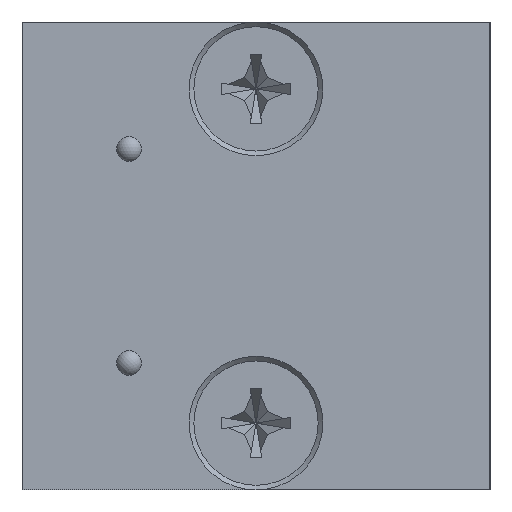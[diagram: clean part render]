
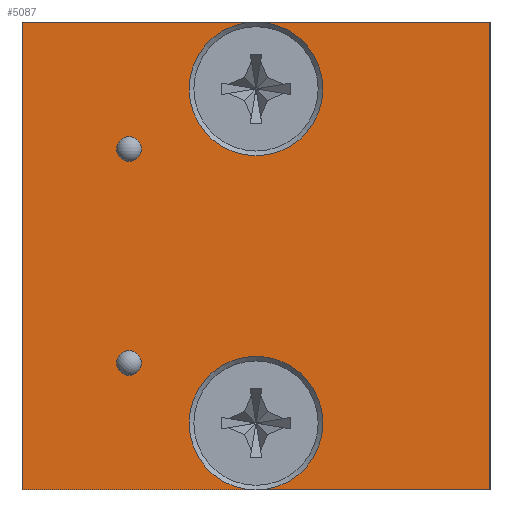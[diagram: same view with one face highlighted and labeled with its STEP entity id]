
A CAD part, left-side view. The second image highlights one B-rep face of the part: STEP entity #5087.
In plain terms, the highlighted planar face has unit normal (-1, 0, 0).
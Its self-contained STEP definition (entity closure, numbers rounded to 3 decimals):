
#267=CIRCLE('',#5406,5.);
#269=CIRCLE('',#5411,0.925);
#271=CIRCLE('',#5418,5.);
#273=CIRCLE('',#5421,0.925);
#833=ORIENTED_EDGE('',*,*,#1719,.T.);
#834=ORIENTED_EDGE('',*,*,#1718,.T.);
#835=ORIENTED_EDGE('',*,*,#1706,.T.);
#836=ORIENTED_EDGE('',*,*,#1721,.T.);
#837=ORIENTED_EDGE('',*,*,#1702,.T.);
#838=ORIENTED_EDGE('',*,*,#1722,.T.);
#839=ORIENTED_EDGE('',*,*,#1723,.T.);
#840=ORIENTED_EDGE('',*,*,#1715,.T.);
#841=ORIENTED_EDGE('',*,*,#1710,.T.);
#842=ORIENTED_EDGE('',*,*,#1724,.T.);
#1702=EDGE_CURVE('',#2228,#2228,#267,.T.);
#1706=EDGE_CURVE('',#2233,#2232,#2620,.T.);
#1710=EDGE_CURVE('',#2235,#2235,#269,.T.);
#1715=EDGE_CURVE('',#2238,#2239,#2622,.T.);
#1718=EDGE_CURVE('',#2239,#2233,#2625,.T.);
#1719=EDGE_CURVE('',#2239,#2239,#271,.T.);
#1721=EDGE_CURVE('',#2232,#2228,#2626,.T.);
#1722=EDGE_CURVE('',#2228,#2242,#2627,.T.);
#1723=EDGE_CURVE('',#2242,#2238,#2628,.T.);
#1724=EDGE_CURVE('',#2243,#2243,#273,.T.);
#2228=VERTEX_POINT('',#8081);
#2232=VERTEX_POINT('',#8089);
#2233=VERTEX_POINT('',#8091);
#2235=VERTEX_POINT('',#8115);
#2238=VERTEX_POINT('',#8149);
#2239=VERTEX_POINT('',#8150);
#2242=VERTEX_POINT('',#8162);
#2243=VERTEX_POINT('',#8165);
#2620=LINE('',#8090,#3018);
#2622=LINE('',#8148,#3020);
#2625=LINE('',#8154,#3023);
#2626=LINE('',#8160,#3024);
#2627=LINE('',#8161,#3025);
#2628=LINE('',#8163,#3026);
#3018=VECTOR('',#6108,1000.);
#3020=VECTOR('',#6126,1000.);
#3023=VECTOR('',#6129,1000.);
#3024=VECTOR('',#6138,1000.);
#3025=VECTOR('',#6139,1000.);
#3026=VECTOR('',#6140,1000.);
#3411=EDGE_LOOP('',(#833,#834,#835,#836,#837,#838,#839,#840));
#3412=EDGE_LOOP('',(#841));
#3413=EDGE_LOOP('',(#842));
#3761=FACE_BOUND('',#3411,.T.);
#3762=FACE_BOUND('',#3412,.T.);
#3763=FACE_BOUND('',#3413,.T.);
#3989=PLANE('',#5420);
#5087=ADVANCED_FACE('',(#3761,#3762,#3763),#3989,.T.);
#5406=AXIS2_PLACEMENT_3D('',#8080,#6100,#6101);
#5411=AXIS2_PLACEMENT_3D('',#8114,#6114,#6115);
#5418=AXIS2_PLACEMENT_3D('',#8156,#6132,#6133);
#5420=AXIS2_PLACEMENT_3D('',#8159,#6136,#6137);
#5421=AXIS2_PLACEMENT_3D('',#8164,#6141,#6142);
#6100=DIRECTION('',(1.,0.,0.));
#6101=DIRECTION('',(0.,1.,0.));
#6108=DIRECTION('',(0.,0.,1.));
#6114=DIRECTION('',(1.,0.,0.));
#6115=DIRECTION('',(0.,1.,0.));
#6126=DIRECTION('',(0.,-1.,0.));
#6129=DIRECTION('',(0.,-1.,0.));
#6132=DIRECTION('',(1.,0.,0.));
#6133=DIRECTION('',(0.,1.,0.));
#6136=DIRECTION('',(-1.,0.,0.));
#6137=DIRECTION('',(0.,-1.,0.));
#6138=DIRECTION('',(0.,1.,0.));
#6139=DIRECTION('',(0.,1.,0.));
#6140=DIRECTION('',(0.,0.,-1.));
#6141=DIRECTION('',(1.,0.,0.));
#6142=DIRECTION('',(0.,1.,0.));
#8080=CARTESIAN_POINT('',(-92.,0.,12.5));
#8081=CARTESIAN_POINT('',(-92.,0.,17.5));
#8089=CARTESIAN_POINT('',(-92.,-17.5,17.5));
#8090=CARTESIAN_POINT('',(-92.,-17.5,-17.5));
#8091=CARTESIAN_POINT('',(-92.,-17.5,-17.5));
#8114=CARTESIAN_POINT('',(-92.,9.5,8.));
#8115=CARTESIAN_POINT('',(-92.,10.425,8.));
#8148=CARTESIAN_POINT('',(-92.,17.5,-17.5));
#8149=CARTESIAN_POINT('',(-92.,17.5,-17.5));
#8150=CARTESIAN_POINT('',(-92.,0.,-17.5));
#8154=CARTESIAN_POINT('',(-92.,0.,-17.5));
#8156=CARTESIAN_POINT('',(-92.,0.,-12.5));
#8159=CARTESIAN_POINT('',(-92.,17.5,-17.5));
#8160=CARTESIAN_POINT('',(-92.,-17.5,17.5));
#8161=CARTESIAN_POINT('',(-92.,0.,17.5));
#8162=CARTESIAN_POINT('',(-92.,17.5,17.5));
#8163=CARTESIAN_POINT('',(-92.,17.5,17.5));
#8164=CARTESIAN_POINT('',(-92.,9.5,-8.));
#8165=CARTESIAN_POINT('',(-92.,10.425,-8.));
